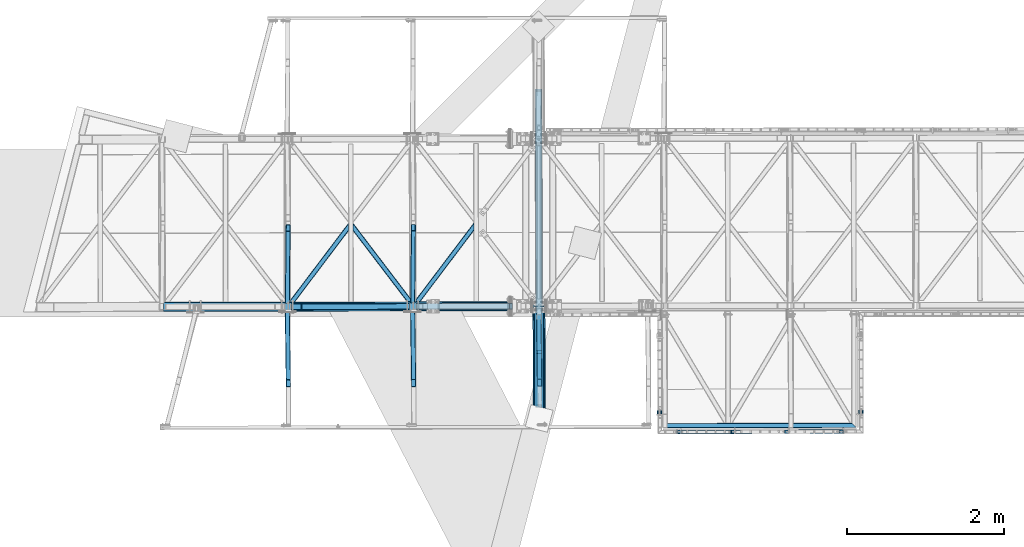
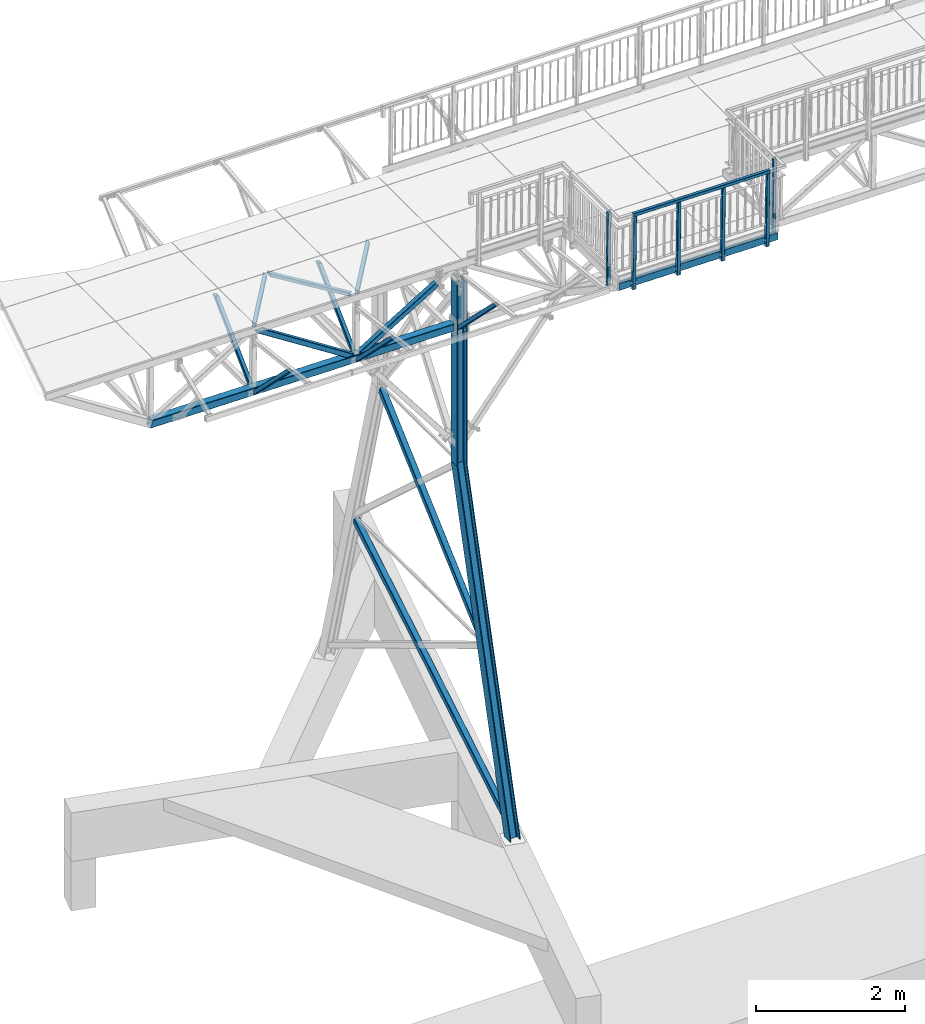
# One storey, part 53 of 169: 23 discrete accessories, 7 elements without a shape of their own.
"""IFC2X3 building model written with IfcOpenShell, lengths in millimetres."""

from ifc_helpers import new_model, si_unit, frame, origin_with_axes, origin_2d_with_axis, place, context, subcontext, project, spatial, rectangle, hollow_rectangle, i_section, extrude, boolean, clip, halfspace, material, type_object, element, aggregate, save


model = new_model("IFC2X3")

# Units and contexts
model_context = context("Model", 3, precision=1e-05, world=origin_with_axes())
body_context = subcontext(model_context, "Body", "Model", "MODEL_VIEW")
ifc_project = project(units=[si_unit("LENGTHUNIT", "METRE", prefix="MILLI"), si_unit("AREAUNIT", "SQUARE_METRE"), si_unit("VOLUMEUNIT", "CUBIC_METRE"), si_unit("MASSUNIT", "GRAM", prefix="KILO"), si_unit("TIMEUNIT", "SECOND"), si_unit("PLANEANGLEUNIT", "RADIAN"), si_unit("SOLIDANGLEUNIT", "STERADIAN"), si_unit("THERMODYNAMICTEMPERATUREUNIT", "DEGREE_CELSIUS"), si_unit("LUMINOUSINTENSITYUNIT", "LUMEN")], contexts=[model_context])

# Site, building, storey
site_placement = place(None, origin_with_axes())
site = spatial("IfcSite", under=ifc_project, at=site_placement, Name="Undefined", CompositionType="ELEMENT")
building_placement = place(site_placement, origin_with_axes())
building = spatial("IfcBuilding", under=site, at=building_placement, Name="Undefined", CompositionType="ELEMENT")
storey_placement = place(building_placement, origin_with_axes())
storey = spatial("IfcBuildingStorey", under=building, at=storey_placement, Name="Undefined", CompositionType="ELEMENT", Elevation=0.0)

# Assembly, discrete accessory
assembly_1_placement = place(storey_placement, origin_with_axes())
assembly_1 = element("IfcElementAssembly", 1, at=assembly_1_placement, inside=storey, Name="Steel Assembly", AssemblyPlace="NOTDEFINED", PredefinedType="RIGID_FRAME")
ifc_material_1 = material(Name="STEEL/S355")
discrete_accessory_type_1 = type_object("IfcDiscreteAccessoryType", Name="BEAM")
discrete_accessory_1_placement = place(assembly_1_placement, frame((6119.57845627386, 56.9058121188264, 12863.386634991), z_axis=(-0.999917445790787, -0.00186469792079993, 0.0127131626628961), x_axis=(0.0103081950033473, -0.707088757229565, 0.707049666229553)))
discrete_accessory_1 = element("IfcDiscreteAccessory", 2, at=discrete_accessory_1_placement, type_object=discrete_accessory_type_1, material=ifc_material_1, Name="BEAM", ObjectType="SHS60*3", context=body_context, shape_type="Clipping", body=[
    clip(clip(extrude(hollow_rectangle(XDim=60.0, YDim=60.0, WallThickness=3.0, InnerFilletRadius=3.0, OuterFilletRadius=6.0, at=origin_2d_with_axis()), frame((1369.30849689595, 1.74297751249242e-12, 9.09494701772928e-13), z_axis=(-1.0, -3.46944695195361e-18, -1.38777878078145e-17), x_axis=(1.73472347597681e-18, -1.0, 0.0)), (0.0, 0.0, 1.0), 1499.43), halfspace(frame((1329.20790757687, -23.5606693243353, 999.999999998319), z_axis=(-0.619044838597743, -0.785355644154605, -4.97519511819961e-11), x_axis=(0.785355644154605, -0.619044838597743, 1.86615579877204e-10)), True)), halfspace(frame((-30.1897417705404, 29.9431319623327, 0.538401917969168), z_axis=(0.707106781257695, -0.7071067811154, 8.78533101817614e-11), x_axis=(0.008989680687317, 0.00898968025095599, -0.999919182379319)), True)),
])
aggregate(assembly_1, [discrete_accessory_1])

assembly_2_placement = place(storey_placement, origin_with_axes())
assembly_2 = element("IfcElementAssembly", 3, at=assembly_2_placement, inside=storey, Name="Steel Assembly", AssemblyPlace="NOTDEFINED", PredefinedType="RIGID_FRAME")
discrete_accessory_2_placement = place(assembly_2_placement, frame((4508.71234557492, 53.4220799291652, 12883.8675390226), z_axis=(-0.999917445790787, -0.00186469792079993, 0.0127131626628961), x_axis=(0.0103081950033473, -0.707088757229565, 0.707049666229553)))
discrete_accessory_2 = element("IfcDiscreteAccessory", 4, at=discrete_accessory_2_placement, type_object=discrete_accessory_type_1, material=ifc_material_1, Name="BEAM", ObjectType="SHS60*3", context=body_context, shape_type="Clipping", body=[
    clip(clip(extrude(hollow_rectangle(XDim=60.0, YDim=60.0, WallThickness=3.0, InnerFilletRadius=3.0, OuterFilletRadius=6.0, at=origin_2d_with_axis()), frame((1369.30849689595, 1.74297751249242e-12, 9.09494701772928e-13), z_axis=(-1.0, -3.46944695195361e-18, -1.38777878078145e-17), x_axis=(1.73472347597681e-18, -1.0, 0.0)), (0.0, 0.0, 1.0), 1420.91), halfspace(frame((1329.20805518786, -23.5606509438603, 1000.00000316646), z_axis=(-0.619044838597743, -0.785355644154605, -4.97519511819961e-11), x_axis=(0.785355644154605, -0.619044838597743, 1.86615579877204e-10)), True)), halfspace(frame((18.3847806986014, 3.8198777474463e-11, -29.9999999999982), z_axis=(0.707106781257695, -0.7071067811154, 8.78533101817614e-11), x_axis=(-0.707106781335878, -0.707106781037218, 2.34571939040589e-10)), True)),
])
aggregate(assembly_2, [discrete_accessory_2])

assembly_3_placement = place(storey_placement, origin_with_axes())
assembly_3 = element("IfcElementAssembly", 5, at=assembly_3_placement, inside=storey, Name="Steel Assembly", AssemblyPlace="NOTDEFINED", PredefinedType="RIGID_FRAME")
discrete_accessory_3_placement = place(assembly_3_placement, frame((7494.56922898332, -1411.01225331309, 13859.0215134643), z_axis=(-0.012713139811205, -2.37511238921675e-05, -0.999919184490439), x_axis=(0.9999174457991, 0.00186469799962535, -0.0127131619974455)))
discrete_accessory_3 = element("IfcDiscreteAccessory", 6, at=discrete_accessory_3_placement, type_object=discrete_accessory_type_1, material=ifc_material_1, Name="BEAM", ObjectType="RHS120*60*3", context=body_context, shape_type="Clipping", body=[
    clip(clip(extrude(hollow_rectangle(XDim=60.0, YDim=120.0, WallThickness=3.0, InnerFilletRadius=3.0, OuterFilletRadius=6.0, at=origin_2d_with_axis()), frame((2719.7942117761, -2.27009161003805e-13, 1.82370749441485e-12), z_axis=(-1.0, -3.46944695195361e-18, -1.38777878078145e-17), x_axis=(1.73472347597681e-18, -1.0, 0.0)), (0.0, 0.0, 1.0), 2542.59), halfspace(frame((2686.00000065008, 30.0000001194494, 1.13470377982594e-07), z_axis=(0.707106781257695, -0.7071067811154, 8.78533101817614e-11), x_axis=(-2.54700353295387e-10, 0.0, -1.0)), False)), halfspace(frame((270.999942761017, -30.0000000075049, 3.74348019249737e-09), z_axis=(-0.707106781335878, -0.707106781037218, 2.34571939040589e-10), x_axis=(-2.54700353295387e-10, 0.0, -1.0)), False)),
])
aggregate(assembly_3, [discrete_accessory_3])

assembly_4_placement = place(storey_placement, origin_with_axes())
assembly_4 = element("IfcElementAssembly", 7, at=assembly_4_placement, inside=storey, Name="Steel Assembly", AssemblyPlace="NOTDEFINED", PredefinedType="RIGID_FRAME")
discrete_accessory_4_placement = place(assembly_4_placement, frame((2907.32921325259, 50.4357368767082, 12904.2278627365), z_axis=(-0.999917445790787, -0.00186469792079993, 0.0127131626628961), x_axis=(0.0103081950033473, -0.707088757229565, 0.707049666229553)))
discrete_accessory_4 = element("IfcDiscreteAccessory", 8, at=discrete_accessory_4_placement, type_object=discrete_accessory_type_1, material=ifc_material_1, Name="BEAM", ObjectType="SHS60*3", context=body_context, shape_type="Clipping", body=[
    clip(clip(extrude(hollow_rectangle(XDim=60.0, YDim=60.0, WallThickness=3.0, InnerFilletRadius=3.0, OuterFilletRadius=6.0, at=origin_2d_with_axis()), frame((1369.30849689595, 1.74297751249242e-12, 9.09494701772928e-13), z_axis=(-1.0, -3.46944695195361e-18, -1.38777878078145e-17), x_axis=(1.73472347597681e-18, -1.0, 0.0)), (0.0, 0.0, 1.0), 1420.91), halfspace(frame((1329.20805518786, -23.5606509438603, 1000.00000316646), z_axis=(-0.619044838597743, -0.785355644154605, -4.97519511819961e-11), x_axis=(0.785355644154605, -0.619044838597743, 1.86615579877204e-10)), True)), halfspace(frame((18.3847806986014, 3.8198777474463e-11, -29.9999999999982), z_axis=(0.707106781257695, -0.7071067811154, 8.78533101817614e-11), x_axis=(-0.707106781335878, -0.707106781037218, 2.34571939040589e-10)), True)),
])
aggregate(assembly_4, [discrete_accessory_4])

# Assembly, discrete accessories
assembly_5_placement = place(storey_placement, origin_with_axes())
assembly_5 = element("IfcElementAssembly", 9, at=assembly_5_placement, inside=storey, Name="Steel Assembly", AssemblyPlace="NOTDEFINED", PredefinedType="RIGID_FRAME")
discrete_accessory_5_placement = place(assembly_5_placement, frame((4521.47886382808, 113.446138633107, 13896.7855596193), z_axis=(-0.012713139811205, -2.37511238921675e-05, -0.999919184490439), x_axis=(0.603048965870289, 0.797667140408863, -0.00768621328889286)))
discrete_accessory_5 = element("IfcDiscreteAccessory", 10, at=discrete_accessory_5_placement, type_object=discrete_accessory_type_1, material=ifc_material_1, Name="BEAM", ObjectType="K60/4", context=body_context, shape_type="CSG", body=[
    boolean("DIFFERENCE", boolean("DIFFERENCE", boolean("DIFFERENCE", extrude(hollow_rectangle(XDim=60.0, YDim=60.0, WallThickness=4.0, InnerFilletRadius=4.0, OuterFilletRadius=8.0, at=origin_2d_with_axis()), frame((1315.35435976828, -9.7635059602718e-14, -1.8178485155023e-12), z_axis=(-1.0, -3.46944695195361e-18, -1.38777878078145e-17), x_axis=(1.73472347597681e-18, -1.0, 0.0)), (0.0, 0.0, 1.0), 1315.35), extrude(rectangle(XDim=62.0, YDim=122.0, at=origin_2d_with_axis()), frame((1641.67124226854, -1246.0481903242, -5.87301509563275e-07), z_axis=(-0.79654115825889, 0.604584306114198, 2.79726373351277e-10), x_axis=(0.604584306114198, 0.79654115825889, -3.06618013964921e-10)), (0.0, 0.0, 1.0), 4122.0)), extrude(rectangle(XDim=122.0, YDim=122.0, at=origin_2d_with_axis()), frame((1227.7876623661, 1617.61313177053, -0.000112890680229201), z_axis=(-0.604584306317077, -0.796541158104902, 5.01400825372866e-10), x_axis=(0.0, 0.0, 1.0)), (0.0, 0.0, 1.0), 4061.59)), halfspace(frame((1306.33891469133, -23.8962347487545, -999.999999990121), z_axis=(-0.604584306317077, -0.796541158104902, 5.01400825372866e-10), x_axis=(-0.79654115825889, 0.604584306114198, 2.79726373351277e-10)), True)),
])
discrete_accessory_6_placement = place(assembly_5_placement, frame((5780.90962148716, 115.794676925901, 13668.8965240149), z_axis=(0.518820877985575, 0.000967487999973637, -0.854882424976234), x_axis=(-0.854880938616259, -0.00159424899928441, -0.51882177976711)))
discrete_accessory_6 = element("IfcDiscreteAccessory", 11, at=discrete_accessory_6_placement, type_object=discrete_accessory_type_1, material=ifc_material_1, Name="BEAM", ObjectType="K80/4", context=body_context, shape_type="CSG", body=[
    boolean("DIFFERENCE", boolean("DIFFERENCE", extrude(hollow_rectangle(XDim=80.0, YDim=80.0, WallThickness=4.0, InnerFilletRadius=4.0, OuterFilletRadius=8.0, at=origin_2d_with_axis()), frame((1488.04600970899, 4.54345182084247e-13, 8.26031470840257e-14), z_axis=(-1.0, -3.46944695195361e-18, -1.38777878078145e-17), x_axis=(1.73472347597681e-18, -1.0, 0.0)), (0.0, 0.0, 1.0), 1471.55), extrude(rectangle(XDim=82.0, YDim=82.0, at=origin_2d_with_axis()), frame((388.002908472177, -3.30034448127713e-07, -1761.7687900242), z_axis=(0.529648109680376, -3.80183087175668e-10, 0.848217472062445), x_axis=(1.73472347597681e-18, -1.0, 0.0)), (0.0, 0.0, 1.0), 4154.05)), halfspace(frame((16.5000003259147, 3.71528585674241e-10, -1000.00000000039), z_axis=(1.0, 0.0, 0.0), x_axis=(1.73472347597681e-18, -1.0, 0.0)), True)),
])
discrete_accessory_7_placement = place(assembly_5_placement, frame((1305.94119680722, 107.449487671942, 12937.5878757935), z_axis=(0.00186484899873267, -0.999998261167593, 4.28757666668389e-08), x_axis=(0.9999174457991, 0.00186469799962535, -0.0127131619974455)))
discrete_accessory_7 = element("IfcDiscreteAccessory", 12, at=discrete_accessory_7_placement, type_object=discrete_accessory_type_1, material=ifc_material_1, Name="BEAM", ObjectType="RHS120*4", context=body_context, shape_type="Clipping", body=[
    clip(clip(extrude(hollow_rectangle(XDim=120.0, YDim=120.0, WallThickness=4.0, InnerFilletRadius=4.0, OuterFilletRadius=8.0, at=origin_2d_with_axis()), frame((4725.85685060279, 1.80259329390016e-12, -4.76865869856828e-16), z_axis=(-1.0, -3.46944695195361e-18, -1.38777878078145e-17), x_axis=(1.73472347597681e-18, -1.0, 0.0)), (0.0, 0.0, 1.0), 4745.98), halfspace(frame((4705.73282374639, 6.3664629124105e-11, -60.0000000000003), z_axis=(-0.999919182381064, -0.0127133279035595, -1.32546567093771e-08), x_axis=(-0.0127133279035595, 0.999919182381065, -3.12727934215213e-10)), True)), halfspace(frame((-17.19467437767, -60.0000000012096, 8.85562201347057e-09), z_axis=(0.961305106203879, -0.275485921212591, 2.44844249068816e-10), x_axis=(0.0, 0.0, 1.0)), True)),
])

assembly_6_placement = place(storey_placement, origin_with_axes())
assembly_6 = element("IfcElementAssembly", 13, at=assembly_6_placement, inside=storey, Name="Steel Assembly", AssemblyPlace="NOTDEFINED", PredefinedType="RIGID_FRAME")
discrete_accessory_8_placement = place(assembly_6_placement, frame((6124.58192305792, -578.367675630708, 8010.4180895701), z_axis=(0.99999826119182, 0.0018648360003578, 1.65999988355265e-07), x_axis=(-0.00137927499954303, 0.739561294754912, 0.673087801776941)))
discrete_accessory_8 = element("IfcDiscreteAccessory", 14, at=discrete_accessory_8_placement, type_object=discrete_accessory_type_1, material=ifc_material_1, Name="BEAM", ObjectType="K90/4", context=body_context, shape_type="Clipping", body=[
    clip(clip(extrude(hollow_rectangle(XDim=90.0, YDim=90.0, WallThickness=4.0, InnerFilletRadius=4.0, OuterFilletRadius=8.0, at=origin_2d_with_axis()), frame((3857.41764455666, 2.14129694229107e-13, 9.0784442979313e-13), z_axis=(-1.0, -3.46944695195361e-18, -1.38777878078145e-17), x_axis=(1.73472347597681e-18, -1.0, 0.0)), (0.0, 0.0, 1.0), 3823.33), halfspace(frame((3761.94744230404, 36.6094176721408, 999.99999924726), z_axis=(-0.889149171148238, 0.457617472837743, -9.38462265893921e-09), x_axis=(-0.457617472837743, -0.889149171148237, 1.77311931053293e-08)), True)), halfspace(frame((43.1273088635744, -67.3797617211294, 1000.00000134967), z_axis=(0.539091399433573, -0.842247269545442, 1.68974189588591e-08), x_axis=(0.842247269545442, 0.539091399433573, -1.05551116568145e-08)), True)),
])
discrete_accessory_9_placement = place(assembly_6_placement, frame((6125.85794913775, -1262.3968456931, 5470.41759366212), z_axis=(0.99999826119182, 0.0018648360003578, 1.65999988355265e-07), x_axis=(-0.00159718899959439, 0.856429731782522, 0.516261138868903)))
discrete_accessory_9 = element("IfcDiscreteAccessory", 15, at=discrete_accessory_9_placement, type_object=discrete_accessory_type_1, material=ifc_material_1, Name="BEAM", ObjectType="K90/4", context=body_context, shape_type="Clipping", body=[
    clip(clip(extrude(hollow_rectangle(XDim=90.0, YDim=90.0, WallThickness=4.0, InnerFilletRadius=4.0, OuterFilletRadius=8.0, at=origin_2d_with_axis()), frame((4918.47449723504, -1.27292904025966e-12, -9.09807094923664e-13), z_axis=(-1.0, -3.46944695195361e-18, -1.38777878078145e-17), x_axis=(1.73472347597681e-18, -1.0, 0.0)), (0.0, 0.0, 1.0), 4884.7), halfspace(frame((4843.0943532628, 22.0636704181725, 999.999999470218), z_axis=(-0.961216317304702, 0.275795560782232, -6.59313149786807e-09), x_axis=(-0.275795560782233, -0.961216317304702, 2.49358572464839e-08)), True)), halfspace(frame((55.4176444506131, -57.6964623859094, 1000.00000144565), z_axis=(0.6927205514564, -0.721206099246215, 1.81015311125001e-08), x_axis=(0.721206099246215, 0.6927205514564, -1.81872637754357e-08)), True)),
])
discrete_accessory_10_placement = place(assembly_6_placement, frame((6125.95339988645, -1313.56437204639, 5280.41759366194), z_axis=(-0.99999826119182, -0.00186483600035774, -1.66000011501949e-07), x_axis=(-0.000485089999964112, 0.260038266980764, 0.965598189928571)))
discrete_accessory_10 = element("IfcDiscreteAccessory", 16, at=discrete_accessory_10_placement, type_object=discrete_accessory_type_1, material=ifc_material_1, Name="BEAM", ObjectType="HEB160", context=body_context, shape_type="Clipping", body=[
    clip(clip(extrude(i_section(OverallWidth=160.0, OverallDepth=160.0, WebThickness=8.0, FlangeThickness=13.0, FilletRadius=15.0, at=origin_2d_with_axis()), frame((5552.43056610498, 7.62969163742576e-13, -2.30157546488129e-16), z_axis=(-1.0, -3.46944695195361e-18, -1.38777878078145e-17), x_axis=(1.73472347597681e-18, -1.0, 0.0)), (0.0, 0.0, 1.0), 5605.68), halfspace(frame((5509.76485129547, 80.0000000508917, 7.44433127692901e-05), z_axis=(-0.991362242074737, 0.13115222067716, -1.76969940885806e-09), x_axis=(0.0, 0.0, 1.0)), True)), halfspace(frame((-0.700291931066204, -2.60037317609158, 1000.00000003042), z_axis=(0.965598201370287, -0.260038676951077, 2.39423674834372e-09), x_axis=(0.260038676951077, 0.965598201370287, -1.31631049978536e-08)), True)),
])

# Discrete accessory
discrete_accessory_11_placement = place(assembly_5_placement, frame((4508.76572428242, 113.422387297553, 12896.866375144), z_axis=(-0.0105615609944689, 0.682786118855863, -0.730541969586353), x_axis=(0.00731813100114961, 0.730615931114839, 0.682749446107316)))
discrete_accessory_11 = element("IfcDiscreteAccessory", 17, at=discrete_accessory_11_placement, type_object=discrete_accessory_type_1, material=ifc_material_1, Name="BEAM", ObjectType="K60/4", context=body_context, shape_type="CSG", body=[
    boolean("DIFFERENCE", boolean("DIFFERENCE", boolean("DIFFERENCE", extrude(hollow_rectangle(XDim=60.0, YDim=60.0, WallThickness=4.0, InnerFilletRadius=4.0, OuterFilletRadius=8.0, at=origin_2d_with_axis()), frame((1409.62306429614, 2.44530622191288e-15, -3.48147920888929e-12), z_axis=(-1.0, -3.46944695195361e-18, -1.38777878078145e-17), x_axis=(1.73472347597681e-18, -1.0, 0.0)), (0.0, 0.0, 1.0), 1409.62), extrude(rectangle(XDim=82.0, YDim=82.0, at=origin_2d_with_axis()), frame((1491.15653144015, 6.98136768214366e-07, 1393.60423636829), z_axis=(-0.730600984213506, -8.41296776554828e-11, -0.682804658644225), x_axis=(0.0, 1.0, 0.0)), (0.0, 0.0, 1.0), 4082.0)), extrude(rectangle(XDim=82.0, YDim=82.0, at=origin_2d_with_axis()), frame((1393.60423162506, -1.60659598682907e-06, -1491.15668038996), z_axis=(-0.682804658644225, 7.91412114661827e-10, 0.730600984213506), x_axis=(-0.730600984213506, -8.41296776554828e-11, -0.682804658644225)), (0.0, 0.0, 1.0), 4082.0)), halfspace(frame((2154.18041553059, 4.7799403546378e-08, 726.64071778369), z_axis=(-0.682804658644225, 7.91412114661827e-10, 0.730600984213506), x_axis=(1.73472347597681e-18, -1.0, 0.0)), True)),
])

discrete_accessory_12_placement = place(assembly_5_placement, frame((2907.38259213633, 110.436044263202, 12917.2266988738), z_axis=(-0.0105615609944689, 0.682786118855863, -0.730541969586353), x_axis=(0.00731813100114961, 0.730615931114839, 0.682749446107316)))
discrete_accessory_12 = element("IfcDiscreteAccessory", 18, at=discrete_accessory_12_placement, type_object=discrete_accessory_type_1, material=ifc_material_1, Name="BEAM", ObjectType="K60/4", context=body_context, shape_type="CSG", body=[
    boolean("DIFFERENCE", boolean("DIFFERENCE", boolean("DIFFERENCE", boolean("DIFFERENCE", extrude(hollow_rectangle(XDim=60.0, YDim=60.0, WallThickness=4.0, InnerFilletRadius=4.0, OuterFilletRadius=8.0, at=origin_2d_with_axis()), frame((1409.62306429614, 2.44530622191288e-15, -3.48147920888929e-12), z_axis=(-1.0, -3.46944695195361e-18, -1.38777878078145e-17), x_axis=(1.73472347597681e-18, -1.0, 0.0)), (0.0, 0.0, 1.0), 1409.62), extrude(rectangle(XDim=122.0, YDim=122.0, at=origin_2d_with_axis()), frame((-3.0605420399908e-06, 2029.999999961, -0.000155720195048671), z_axis=(1.73472347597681e-18, -1.0, 0.0), x_axis=(-0.682804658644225, 7.91412114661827e-10, 0.730600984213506)), (0.0, 0.0, 1.0), 4060.0)), extrude(rectangle(XDim=82.0, YDim=82.0, at=origin_2d_with_axis()), frame((1491.15653144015, 6.98136768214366e-07, 1393.60423636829), z_axis=(-0.730600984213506, -8.41296776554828e-11, -0.682804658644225), x_axis=(0.0, 1.0, 0.0)), (0.0, 0.0, 1.0), 4082.0)), extrude(rectangle(XDim=82.0, YDim=82.0, at=origin_2d_with_axis()), frame((1393.60423162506, -1.60659598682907e-06, -1491.15668038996), z_axis=(-0.682804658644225, 7.91412114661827e-10, 0.730600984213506), x_axis=(-0.730600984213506, -8.41296776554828e-11, -0.682804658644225)), (0.0, 0.0, 1.0), 4082.0)), halfspace(frame((2154.18041553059, 4.7799403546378e-08, 726.64071778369), z_axis=(-0.682804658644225, 7.91412114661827e-10, 0.730600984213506), x_axis=(1.73472347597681e-18, -1.0, 0.0)), True)),
])

discrete_accessory_13_placement = place(assembly_5_placement, frame((4508.76572448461, 113.422282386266, 12896.8663751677), z_axis=(-0.540378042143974, -0.00100776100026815, -0.841421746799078), x_axis=(-0.841420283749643, -0.00156910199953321, 0.540378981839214)))
discrete_accessory_13 = element("IfcDiscreteAccessory", 19, at=discrete_accessory_13_placement, type_object=discrete_accessory_type_1, material=ifc_material_1, Name="BEAM", ObjectType="K80/4", context=body_context, shape_type="CSG", body=[
    boolean("DIFFERENCE", boolean("DIFFERENCE", boolean("DIFFERENCE", extrude(hollow_rectangle(XDim=80.0, YDim=80.0, WallThickness=4.0, InnerFilletRadius=4.0, OuterFilletRadius=8.0, at=origin_2d_with_axis()), frame((1888.08140631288, -3.99591892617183e-16, -2.09619144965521e-13), z_axis=(-1.0, -3.46944695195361e-18, -1.38777878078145e-17), x_axis=(1.73472347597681e-18, -1.0, 0.0)), (0.0, 0.0, 1.0), 1888.08), extrude(rectangle(XDim=82.0, YDim=82.0, at=origin_2d_with_axis()), frame((1100.05787383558, 1.22998632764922e-06, -1761.75956571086), z_axis=(-0.529638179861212, -7.14385769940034e-10, 0.848223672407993), x_axis=(1.73472347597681e-18, -1.0, 0.0)), (0.0, 0.0, 1.0), 4154.0)), extrude(rectangle(XDim=82.0, YDim=82.0, at=origin_2d_with_axis()), frame((2979.66563475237, 1.49284688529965e-06, -1748.18889350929), z_axis=(-0.529638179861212, -7.14385769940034e-10, 0.848223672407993), x_axis=(1.73472347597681e-18, -1.0, 0.0)), (0.0, 0.0, 1.0), 4122.0)), extrude(rectangle(XDim=122.0, YDim=122.0, at=origin_2d_with_axis()), frame((157.029487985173, -7.52537512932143e-07, -1080.88388656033), z_axis=(0.848223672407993, 1.62718886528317e-10, 0.529638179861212), x_axis=(-0.529638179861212, -7.14385769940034e-10, 0.848223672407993)), (0.0, 0.0, 1.0), 4081.59)),
])

discrete_accessory_14_placement = place(assembly_5_placement, frame((3718.81988158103, 1166.95113256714, 13906.9656759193), z_axis=(-0.012713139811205, -2.37511238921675e-05, -0.999919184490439), x_axis=(0.606019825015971, -0.795412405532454, -0.00768614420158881)))
discrete_accessory_14 = element("IfcDiscreteAccessory", 20, at=discrete_accessory_14_placement, type_object=discrete_accessory_type_1, material=ifc_material_1, Name="BEAM", ObjectType="K60/4", context=body_context, shape_type="CSG", body=[
    boolean("DIFFERENCE", boolean("DIFFERENCE", boolean("DIFFERENCE", extrude(hollow_rectangle(XDim=60.0, YDim=60.0, WallThickness=4.0, InnerFilletRadius=4.0, OuterFilletRadius=8.0, at=origin_2d_with_axis()), frame((1324.47644334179, 4.88419580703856e-14, 0.0), z_axis=(-1.0, -3.46944695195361e-18, -1.38777878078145e-17), x_axis=(1.73472347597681e-18, -1.0, 0.0)), (0.0, 0.0, 1.0), 1315.24), extrude(rectangle(XDim=62.0, YDim=122.0, at=origin_2d_with_axis()), frame((-317.194798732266, -1246.04819274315, -4.50218587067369e-07), z_axis=(0.796541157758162, 0.604584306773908, 3.61473572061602e-11), x_axis=(0.604584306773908, -0.796541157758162, 1.21739011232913e-10)), (0.0, 0.0, 1.0), 4122.0)), extrude(rectangle(XDim=122.0, YDim=122.0, at=origin_2d_with_axis()), frame((2552.51032927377, -1617.93718011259, -0.000112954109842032), z_axis=(-0.604584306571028, 0.79654115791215, 7.30440430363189e-11), x_axis=(0.0, 0.0, 1.0)), (0.0, 0.0, 1.0), 4062.41)), halfspace(frame((18.1375303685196, -23.8962347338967, -999.999999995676), z_axis=(0.604584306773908, -0.796541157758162, 1.21739011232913e-10), x_axis=(-0.796541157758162, -0.604584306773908, -3.61451384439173e-11)), True)),
])

discrete_accessory_15_placement = place(assembly_5_placement, frame((2920.09573168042, 110.459795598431, 13917.1458833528), z_axis=(-0.012713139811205, -2.37511238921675e-05, -0.999919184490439), x_axis=(0.603048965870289, 0.797667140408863, -0.00768621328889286)))
discrete_accessory_15 = element("IfcDiscreteAccessory", 21, at=discrete_accessory_15_placement, type_object=discrete_accessory_type_1, material=ifc_material_1, Name="BEAM", ObjectType="K60/4", context=body_context, shape_type="CSG", body=[
    boolean("DIFFERENCE", boolean("DIFFERENCE", boolean("DIFFERENCE", extrude(hollow_rectangle(XDim=60.0, YDim=60.0, WallThickness=4.0, InnerFilletRadius=4.0, OuterFilletRadius=8.0, at=origin_2d_with_axis()), frame((1315.35435976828, -9.7635059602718e-14, -1.8178485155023e-12), z_axis=(-1.0, -3.46944695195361e-18, -1.38777878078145e-17), x_axis=(1.73472347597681e-18, -1.0, 0.0)), (0.0, 0.0, 1.0), 1315.35), extrude(rectangle(XDim=62.0, YDim=122.0, at=origin_2d_with_axis()), frame((1641.67124226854, -1246.0481903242, -5.87301509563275e-07), z_axis=(-0.79654115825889, 0.604584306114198, 2.79726373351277e-10), x_axis=(0.604584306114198, 0.79654115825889, -3.06618013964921e-10)), (0.0, 0.0, 1.0), 4122.0)), extrude(rectangle(XDim=122.0, YDim=122.0, at=origin_2d_with_axis()), frame((1227.7876623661, 1617.61313177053, -0.000112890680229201), z_axis=(-0.604584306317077, -0.796541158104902, 5.01400825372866e-10), x_axis=(0.0, 0.0, 1.0)), (0.0, 0.0, 1.0), 4061.59)), halfspace(frame((1306.33891469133, -23.8962347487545, -999.999999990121), z_axis=(-0.604584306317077, -0.796541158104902, 5.01400825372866e-10), x_axis=(-0.79654115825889, 0.604584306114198, 2.79726373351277e-10)), True)),
])

aggregate(assembly_5, [discrete_accessory_5, discrete_accessory_6, discrete_accessory_7, discrete_accessory_11, discrete_accessory_12, discrete_accessory_13, discrete_accessory_14, discrete_accessory_15])

discrete_accessory_16_placement = place(assembly_6_placement, frame((6123.28523105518, 116.433191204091, 13575.4176699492), z_axis=(-0.99999826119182, -0.00186483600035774, -1.66000011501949e-07), x_axis=(-2.54700353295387e-10, 0.0, -1.0)))
discrete_accessory_16 = element("IfcDiscreteAccessory", 22, at=discrete_accessory_16_placement, type_object=discrete_accessory_type_1, material=ifc_material_1, Name="BEAM", ObjectType="HEB160", context=body_context, shape_type="Clipping", body=[
    clip(clip(extrude(i_section(OverallWidth=160.0, OverallDepth=160.0, WebThickness=8.0, FlangeThickness=13.0, FilletRadius=15.0, at=origin_2d_with_axis()), frame((2985.00060696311, -4.54747350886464e-13, -9.0949462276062e-13), z_axis=(-1.0, -3.46944695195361e-18, -1.38777878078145e-17), x_axis=(1.73472347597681e-18, -1.0, 0.0)), (0.0, 0.0, 1.0), 2994.84), halfspace(frame((2995.58420648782, -80.0000000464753, -9.94177753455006e-07), z_axis=(0.991362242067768, 0.131152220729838, 1.57353719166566e-09), x_axis=(0.0, 0.0, 1.0)), False)), halfspace(frame((-11.4323628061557, -3.6253755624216e-05, -1000.0146842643), z_axis=(0.999998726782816, -4.92529531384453e-06, -0.00159574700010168), x_axis=(-4.92530956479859e-06, -0.999999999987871, -5.00080841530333e-09)), True)),
])

aggregate(assembly_6, [discrete_accessory_8, discrete_accessory_9, discrete_accessory_10, discrete_accessory_16])

# Assembly, discrete accessories
assembly_7_placement = place(storey_placement, origin_with_axes())
assembly_7 = element("IfcElementAssembly", 23, at=assembly_7_placement, inside=storey, Name="Steel Assembly", AssemblyPlace="NOTDEFINED", PredefinedType="RIGID_FRAME")
ifc_material_2 = material(Name="STEEL/S235")
discrete_accessory_type_2 = type_object("IfcDiscreteAccessoryType", Name="PORĘCZ")
discrete_accessory_17_placement = place(assembly_7_placement, frame((7895.43360214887, -1490.26478958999, 15014.0204927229), z_axis=(-0.0018648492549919, 0.999998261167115, -4.2996762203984e-08), x_axis=(0.9999174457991, 0.00186469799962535, -0.0127131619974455)))
discrete_accessory_17 = element("IfcDiscreteAccessory", 24, at=discrete_accessory_17_placement, type_object=discrete_accessory_type_2, material=ifc_material_2, Name="PORĘCZ", ObjectType="RHS50*3", context=body_context, shape_type="SweptSolid", body=[
    extrude(hollow_rectangle(XDim=50.0, YDim=50.0, WallThickness=3.0, InnerFilletRadius=3.0, OuterFilletRadius=6.0, at=origin_2d_with_axis()), frame((2125.00019049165, 3.68628771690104e-15, 1.98238297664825e-16), z_axis=(-1.0, -3.46944695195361e-18, -1.38777878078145e-17), x_axis=(1.73472347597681e-18, -1.0, 0.0)), (0.0, 0.0, 1.0), 2125.0),
])
discrete_accessory_type_3 = type_object("IfcDiscreteAccessoryType", Name="STANCHION")
discrete_accessory_18_placement = place(assembly_7_placement, frame((9288.39655558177, -1487.66716686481, 13901.2215668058), z_axis=(0.00186484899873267, -0.999998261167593, 4.28757666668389e-08), x_axis=(0.012713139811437, 2.3750999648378e-05, 0.999919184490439)))
discrete_accessory_18 = element("IfcDiscreteAccessory", 25, at=discrete_accessory_18_placement, type_object=discrete_accessory_type_3, material=ifc_material_2, Name="STANCHION", ObjectType="SHS50*3", context=body_context, shape_type="Clipping", body=[
    clip(clip(extrude(hollow_rectangle(XDim=50.0, YDim=50.0, WallThickness=3.0, InnerFilletRadius=3.0, OuterFilletRadius=6.0, at=origin_2d_with_axis()), frame((1070.00000002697, 1.85615411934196e-15, 4.54749156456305e-13), z_axis=(-1.0, -3.46944695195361e-18, -1.38777878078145e-17), x_axis=(1.73472347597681e-18, -1.0, 0.0)), (0.0, 0.0, 1.0), 1195.0), halfspace(frame((1070.00000015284, -4.18731360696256e-09, 1000.00000000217), z_axis=(-1.0, -3.46944695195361e-18, -1.38777878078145e-17), x_axis=(1.73472347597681e-18, -1.0, 0.0)), True)), halfspace(frame((-124.999999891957, -1025.00000000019, -1.88038029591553e-10), z_axis=(1.0, 0.0, 0.0), x_axis=(0.0, 0.0, 1.0)), True)),
])
discrete_accessory_19_placement = place(assembly_7_placement, frame((7654.47592825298, -1240.71375599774, 13796.9795384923), z_axis=(-0.999917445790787, -0.00186469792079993, 0.0127131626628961), x_axis=(0.012713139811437, 2.3750999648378e-05, 0.999919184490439)))
discrete_accessory_19 = element("IfcDiscreteAccessory", 26, at=discrete_accessory_19_placement, type_object=discrete_accessory_type_3, material=ifc_material_2, Name="STANCHION", ObjectType="SHS50*3", context=body_context, shape_type="Clipping", body=[
    clip(clip(extrude(hollow_rectangle(XDim=50.0, YDim=50.0, WallThickness=3.0, InnerFilletRadius=3.0, OuterFilletRadius=6.0, at=origin_2d_with_axis()), frame((1195.00000000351, 5.77272805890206e-18, -9.09494701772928e-13), z_axis=(-1.0, -3.46944695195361e-18, -1.38777878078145e-17), x_axis=(1.73472347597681e-18, -1.0, 0.0)), (0.0, 0.0, 1.0), 1195.0), halfspace(frame((1194.99999981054, -3.71505848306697e-09, 999.99999999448), z_axis=(-1.0, -3.46944695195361e-18, -1.38777878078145e-17), x_axis=(1.73472347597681e-18, -1.0, 0.0)), True)), halfspace(frame((-1.00839315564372e-07, -1025.00000000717, -2.61750756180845e-07), z_axis=(1.0, 0.0, 0.0), x_axis=(0.0, 0.0, 1.0)), True)),
])
discrete_accessory_20_placement = place(assembly_7_placement, frame((7906.44707999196, -1490.24429825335, 13913.7915607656), z_axis=(0.00186484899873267, -0.999998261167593, 4.28757666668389e-08), x_axis=(0.012713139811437, 2.3750999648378e-05, 0.999919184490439)))
discrete_accessory_20 = element("IfcDiscreteAccessory", 27, at=discrete_accessory_20_placement, type_object=discrete_accessory_type_3, material=ifc_material_2, Name="STANCHION", ObjectType="SHS50*3", context=body_context, shape_type="Clipping", body=[
    clip(clip(extrude(hollow_rectangle(XDim=50.0, YDim=50.0, WallThickness=3.0, InnerFilletRadius=3.0, OuterFilletRadius=6.0, at=origin_2d_with_axis()), frame((1074.99999999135, -5.68489533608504e-14, -9.13224357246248e-13), z_axis=(-1.0, -3.46944695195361e-18, -1.38777878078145e-17), x_axis=(1.73472347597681e-18, -1.0, 0.0)), (0.0, 0.0, 1.0), 1195.0), halfspace(frame((1074.99999979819, -3.79020548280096e-09, 999.999999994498), z_axis=(-1.0, -3.46944695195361e-18, -1.38777878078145e-17), x_axis=(1.73472347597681e-18, -1.0, 0.0)), True)), halfspace(frame((-120.000000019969, -1025.00000000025, -5.14306819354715e-10), z_axis=(1.0, 0.0, 0.0), x_axis=(0.0, 0.0, 1.0)), True)),
])
discrete_accessory_21_placement = place(assembly_7_placement, frame((10229.2635483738, -1235.91215828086, 13764.2431438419), z_axis=(0.9999174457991, 0.00186469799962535, -0.0127131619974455), x_axis=(0.012713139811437, 2.3750999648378e-05, 0.999919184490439)))
discrete_accessory_21 = element("IfcDiscreteAccessory", 28, at=discrete_accessory_21_placement, type_object=discrete_accessory_type_3, material=ifc_material_2, Name="STANCHION", ObjectType="SHS50*3", context=body_context, shape_type="Clipping", body=[
    clip(clip(extrude(hollow_rectangle(XDim=50.0, YDim=50.0, WallThickness=3.0, InnerFilletRadius=3.0, OuterFilletRadius=6.0, at=origin_2d_with_axis()), frame((1195.00000000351, 5.77272805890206e-18, -9.09494701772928e-13), z_axis=(-1.0, -3.46944695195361e-18, -1.38777878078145e-17), x_axis=(1.73472347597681e-18, -1.0, 0.0)), (0.0, 0.0, 1.0), 1195.0), halfspace(frame((1194.99999980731, -5.78438630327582e-10, -1000.00000001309), z_axis=(-1.0, -3.46944695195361e-18, -1.38777878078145e-17), x_axis=(0.0, 1.0, 0.0)), True)), halfspace(frame((-1.00839315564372e-07, -1025.00000000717, -2.61750756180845e-07), z_axis=(1.0, 0.0, 0.0), x_axis=(0.0, 0.0, 1.0)), True)),
])
discrete_accessory_22_placement = place(assembly_7_placement, frame((9981.27597482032, -1486.37504954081, 13887.4117471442), z_axis=(0.00186484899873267, -0.999998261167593, 4.28757666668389e-08), x_axis=(0.012713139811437, 2.3750999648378e-05, 0.999919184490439)))
discrete_accessory_22 = element("IfcDiscreteAccessory", 29, at=discrete_accessory_22_placement, type_object=discrete_accessory_type_3, material=ifc_material_2, Name="STANCHION", ObjectType="SHS50*3", context=body_context, shape_type="Clipping", body=[
    clip(clip(extrude(hollow_rectangle(XDim=50.0, YDim=50.0, WallThickness=3.0, InnerFilletRadius=3.0, OuterFilletRadius=6.0, at=origin_2d_with_axis()), frame((1074.99999999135, -5.68489533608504e-14, -9.13224357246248e-13), z_axis=(-1.0, -3.46944695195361e-18, -1.38777878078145e-17), x_axis=(1.73472347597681e-18, -1.0, 0.0)), (0.0, 0.0, 1.0), 1195.0), halfspace(frame((1074.99999979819, -3.79020548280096e-09, 999.999999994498), z_axis=(-1.0, -3.46944695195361e-18, -1.38777878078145e-17), x_axis=(1.73472347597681e-18, -1.0, 0.0)), True)), halfspace(frame((-120.000000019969, -1025.00000000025, -5.14306819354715e-10), z_axis=(1.0, 0.0, 0.0), x_axis=(0.0, 0.0, 1.0)), True)),
])
discrete_accessory_23_placement = place(assembly_7_placement, frame((8597.45360062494, -1488.95567318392, 13910.0063617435), z_axis=(0.00186484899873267, -0.999998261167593, 4.28757666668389e-08), x_axis=(0.012713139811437, 2.3750999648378e-05, 0.999919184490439)))
discrete_accessory_23 = element("IfcDiscreteAccessory", 30, at=discrete_accessory_23_placement, type_object=discrete_accessory_type_3, material=ifc_material_2, Name="STANCHION", ObjectType="SHS50*3", context=body_context, shape_type="Clipping", body=[
    clip(clip(extrude(hollow_rectangle(XDim=50.0, YDim=50.0, WallThickness=3.0, InnerFilletRadius=3.0, OuterFilletRadius=6.0, at=origin_2d_with_axis()), frame((1070.00000002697, 1.85615411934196e-15, 4.54749156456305e-13), z_axis=(-1.0, -3.46944695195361e-18, -1.38777878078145e-17), x_axis=(1.73472347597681e-18, -1.0, 0.0)), (0.0, 0.0, 1.0), 1195.0), halfspace(frame((1070.00000015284, -4.18731360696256e-09, 1000.00000000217), z_axis=(-1.0, -3.46944695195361e-18, -1.38777878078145e-17), x_axis=(1.73472347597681e-18, -1.0, 0.0)), True)), halfspace(frame((-124.999999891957, -1025.00000000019, -1.88038029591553e-10), z_axis=(1.0, 0.0, 0.0), x_axis=(0.0, 0.0, 1.0)), True)),
])
aggregate(assembly_7, [discrete_accessory_18, discrete_accessory_17, discrete_accessory_19, discrete_accessory_20, discrete_accessory_21, discrete_accessory_22, discrete_accessory_23])

save(model, "model.ifc")
